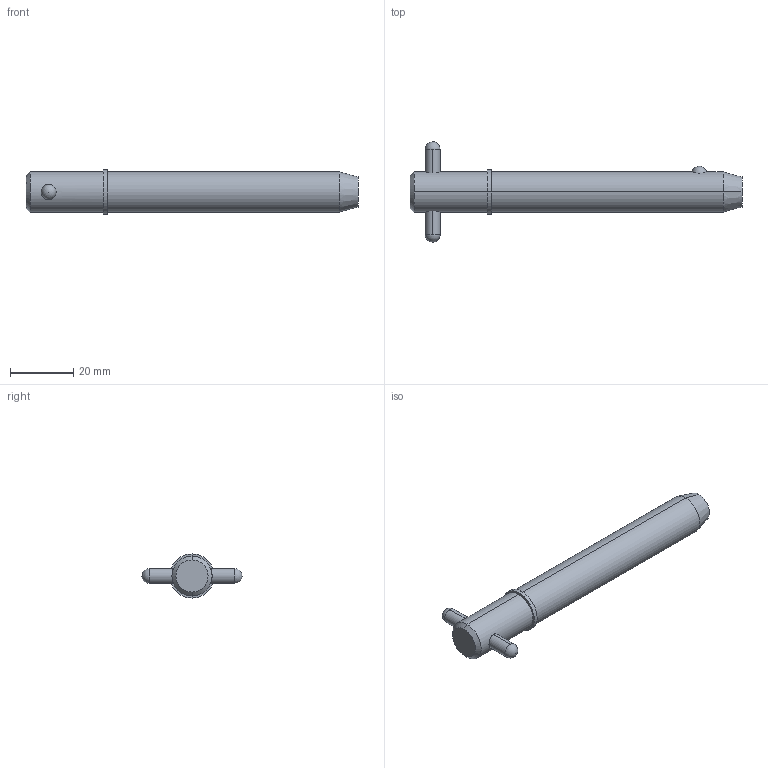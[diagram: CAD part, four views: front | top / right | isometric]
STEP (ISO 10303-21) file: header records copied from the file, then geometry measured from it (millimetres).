
FILE_DESCRIPTION (( 'STEP AP203' ), '1' );
FILE_NAME ('33018.W5025.step', '2024-11-19T17:14:58', ( '' ), ( '' ), 'SwSTEP 2.0', 'SolidWorks 2019', '' );
FILE_SCHEMA (( 'CONFIG_CONTROL_DESIGN' ));
Length unit declared in the file: millimetre
Products named in the file (3): 33018.W5025; Part1_33018.W5025; Part2_33018.W5025
Assembly tree (2 placements, depth 2):
  33018.W5025
    Part1_33018.W5025
    Part2_33018.W5025
Bounding box: 105.08 x 31.75 x 13.97 mm (x, y, z)
Volume: 13477.9 mm3; surface area: 5028.8 mm2
Topology: 2 solids, 2 shells, 22 faces, 47 edges, 30 vertices
Faces by surface type: cylinder 10, sphere 4, cone 4, plane 4
Entity records: 1043 total; most frequent: CARTESIAN_POINT 286, DIRECTION 110, ORIENTED_EDGE 82, AXIS2_PLACEMENT_3D 48, EDGE_CURVE 41, EDGE_LOOP 27, VERTEX_POINT 26, PERSON_AND_ORGANIZATION 26
